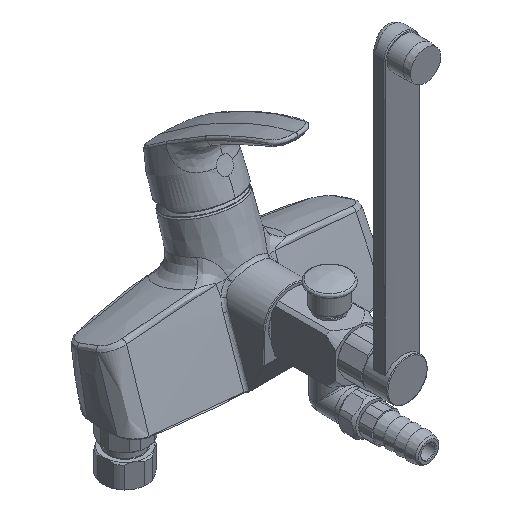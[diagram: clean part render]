
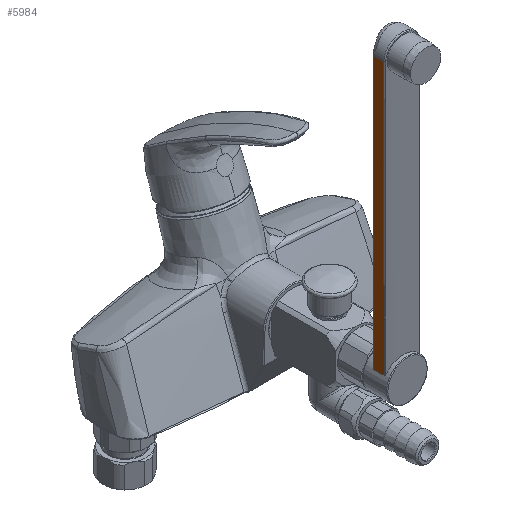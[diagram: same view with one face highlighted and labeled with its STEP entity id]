
A CAD part, isometric view. The second image highlights one B-rep face of the part: STEP entity #5984.
In plain terms, the highlighted planar face has unit normal (-1, 0, -0.001).
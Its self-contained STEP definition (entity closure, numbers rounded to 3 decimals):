
#732 = CARTESIAN_POINT ( 'NONE',  ( -12.798, -114.939, 89.903 ) ) ;
#1029 = ORIENTED_EDGE ( 'NONE', *, *, #5838, .F. ) ;
#1049 = DIRECTION ( 'NONE',  ( -0.001, 0., 1. ) ) ;
#1131 = ORIENTED_EDGE ( 'NONE', *, *, #13684, .T. ) ;
#1268 = LINE ( 'NONE', #14461, #6483 ) ;
#1713 = DIRECTION ( 'NONE',  ( 0., 1., 0. ) ) ;
#2274 = VERTEX_POINT ( 'NONE', #11395 ) ;
#2453 = CARTESIAN_POINT ( 'NONE',  ( -12.943, -122.389, 283.666 ) ) ;
#3491 = PLANE ( 'NONE',  #6372 ) ;
#5156 = VECTOR ( 'NONE', #7392, 1000. ) ;
#5456 = DIRECTION ( 'NONE',  ( 0., 1., 0. ) ) ;
#5826 = VECTOR ( 'NONE', #1713, 1000. ) ;
#5838 = EDGE_CURVE ( 'NONE', #6267, #8779, #15867, .T. ) ;
#5984 = ADVANCED_FACE ( 'NONE', ( #14702 ), #3491, .T. ) ;
#6267 = VERTEX_POINT ( 'NONE', #20078 ) ;
#6372 = AXIS2_PLACEMENT_3D ( 'NONE', #23817, #16781, #5456 ) ;
#6483 = VECTOR ( 'NONE', #1049, 1000. ) ;
#7392 = DIRECTION ( 'NONE',  ( 0., -1., 0. ) ) ;
#7613 = EDGE_CURVE ( 'NONE', #2274, #19957, #10886, .T. ) ;
#8779 = VERTEX_POINT ( 'NONE', #732 ) ;
#10391 = CARTESIAN_POINT ( 'NONE',  ( -12.798, -114.939, 89.903 ) ) ;
#10886 = LINE ( 'NONE', #16757, #5156 ) ;
#11395 = CARTESIAN_POINT ( 'NONE',  ( -12.943, -114.939, 283.666 ) ) ;
#12645 = B_SPLINE_CURVE_WITH_KNOTS ( 'NONE', 3,
 ( #19620, #14051, #21451, #10391 ),
 .UNSPECIFIED., .F., .F.,
 ( 4, 4 ),
 ( 0., 0.659 ),
 .UNSPECIFIED. ) ;
#13684 = EDGE_CURVE ( 'NONE', #6267, #19957, #1268, .T. ) ;
#14051 = CARTESIAN_POINT ( 'NONE',  ( -12.895, -114.939, 219.079 ) ) ;
#14461 = CARTESIAN_POINT ( 'NONE',  ( -12.953, -122.389, 296.316 ) ) ;
#14702 = FACE_OUTER_BOUND ( 'NONE', #20613, .T. ) ;
#15867 = LINE ( 'NONE', #24240, #5826 ) ;
#16757 = CARTESIAN_POINT ( 'NONE',  ( -12.943, 44.383, 283.666 ) ) ;
#16781 = DIRECTION ( 'NONE',  ( -1., 0., -0.001 ) ) ;
#19286 = EDGE_CURVE ( 'NONE', #2274, #8779, #12645, .T. ) ;
#19620 = CARTESIAN_POINT ( 'NONE',  ( -12.943, -114.939, 283.666 ) ) ;
#19957 = VERTEX_POINT ( 'NONE', #2453 ) ;
#20078 = CARTESIAN_POINT ( 'NONE',  ( -12.798, -122.389, 89.903 ) ) ;
#20613 = EDGE_LOOP ( 'NONE', ( #1029, #1131, #24425, #24399 ) ) ;
#21451 = CARTESIAN_POINT ( 'NONE',  ( -12.847, -114.939, 154.491 ) ) ;
#23817 = CARTESIAN_POINT ( 'NONE',  ( -12.953, -114.52, 296.316 ) ) ;
#24240 = CARTESIAN_POINT ( 'NONE',  ( -12.798, -95.317, 89.903 ) ) ;
#24399 = ORIENTED_EDGE ( 'NONE', *, *, #19286, .T. ) ;
#24425 = ORIENTED_EDGE ( 'NONE', *, *, #7613, .F. ) ;
